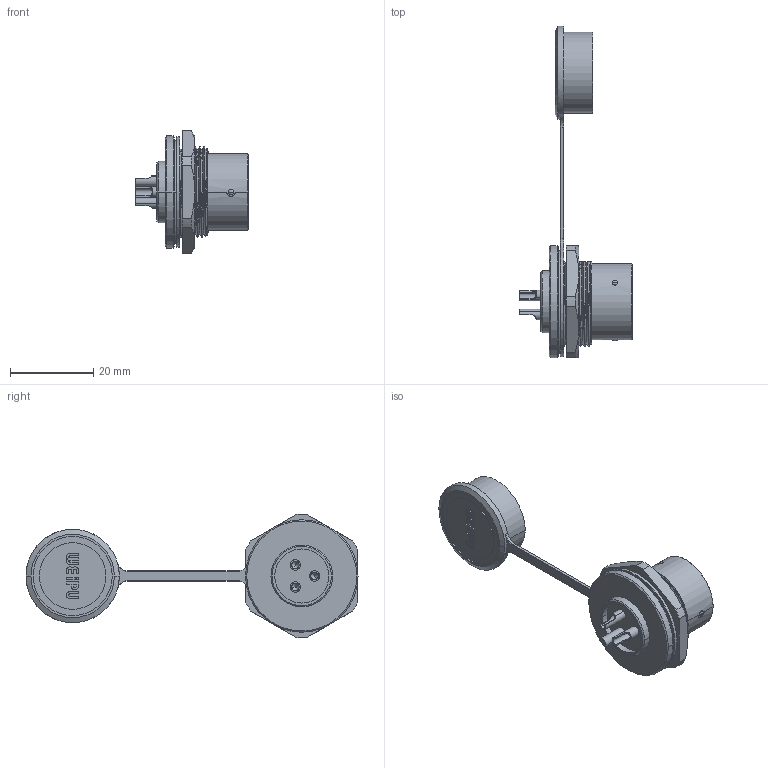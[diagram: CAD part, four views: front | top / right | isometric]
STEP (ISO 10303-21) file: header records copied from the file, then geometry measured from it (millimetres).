
FILE_DESCRIPTION((''),'2;1');
FILE_NAME('SF1615P3','2019-11-15T',('Administrator'),(''),'CREO PARAMETRIC BY PTC INC, 2016130','CREO PARAMETRIC BY PTC INC, 2016130','');
FILE_SCHEMA(('CONFIG_CONTROL_DESIGN'));
Length unit declared in the file: millimetre
Products named in the file (1): SF1615P3
Bounding box: 27.1 x 79.7 x 29.69 mm (x, y, z)
Volume: 6793.9 mm3; surface area: 6414.3 mm2
Topology: 1 solids, 1 shells, 248 faces, 623 edges, 393 vertices
Faces by surface type: plane 92, cylinder 79, cone 30, bspline 20, sphere 18, torus 9
Entity records: 10233 total; most frequent: CARTESIAN_POINT 4417, ORIENTED_EDGE 1206, DIRECTION 1172, EDGE_CURVE 603, AXIS2_PLACEMENT_3D 443, VERTEX_POINT 393, VECTOR 286, LINE 286
